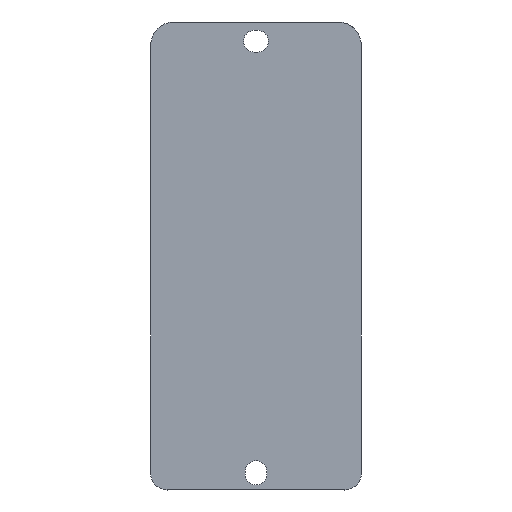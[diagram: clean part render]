
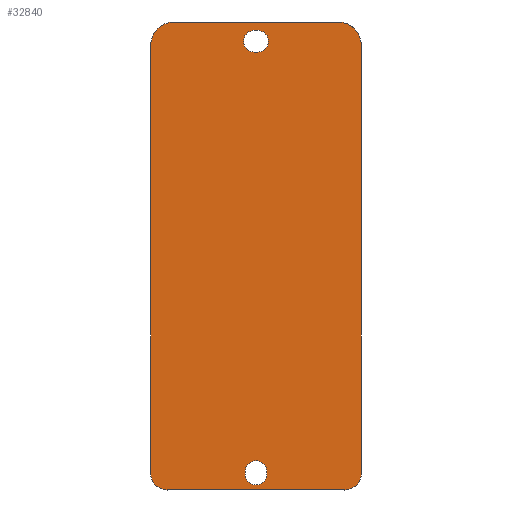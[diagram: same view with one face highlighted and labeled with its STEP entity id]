
A CAD part, front view. The second image highlights one B-rep face of the part: STEP entity #32840.
In plain terms, the highlighted planar face has unit normal (0, -1, 0).
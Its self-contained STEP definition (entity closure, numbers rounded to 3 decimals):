
#25565=CARTESIAN_POINT('',(-26.5,0.,-50.46));
#25566=DIRECTION('',(0.,1.,0.));
#25567=DIRECTION('',(0.,0.,-1.));
#25568=AXIS2_PLACEMENT_3D('',#25565,#25566,#25567);
#25570=DIRECTION('',(0.,0.,1.));
#25571=VECTOR('',#25570,128.);
#25572=CARTESIAN_POINT('',(-31.5,0.,-50.46));
#25573=LINE('',#25572,#25571);
#25574=CARTESIAN_POINT('',(-24.5,0.,77.539));
#25575=DIRECTION('',(0.,1.,0.));
#25576=DIRECTION('',(-1.,0.,0.));
#25577=AXIS2_PLACEMENT_3D('',#25574,#25575,#25576);
#25579=DIRECTION('',(1.,0.,0.));
#25580=VECTOR('',#25579,49.);
#25581=CARTESIAN_POINT('',(-24.5,0.,
84.539));
#25582=LINE('',#25581,#25580);
#25583=CARTESIAN_POINT('',(24.5,0.,77.539));
#25584=DIRECTION('',(0.,1.,0.));
#25585=DIRECTION('',(0.,0.,1.));
#25586=AXIS2_PLACEMENT_3D('',#25583,#25584,#25585);
#25588=DIRECTION('',(0.,0.,-1.));
#25589=VECTOR('',#25588,128.);
#25590=CARTESIAN_POINT('',(31.5,0.,77.539));
#25591=LINE('',#25590,#25589);
#25592=CARTESIAN_POINT('',(26.5,0.,-50.46));
#25593=DIRECTION('',(0.,1.,0.));
#25594=DIRECTION('',(1.,0.,0.));
#25595=AXIS2_PLACEMENT_3D('',#25592,#25593,#25594);
#25597=CARTESIAN_POINT('',(0.,0.,-49.91));
#25598=DIRECTION('',(0.,-1.,0.));
#25599=DIRECTION('',(1.,0.,0.));
#25600=AXIS2_PLACEMENT_3D('',#25597,#25598,#25599);
#25602=DIRECTION('',(0.,0.,-1.));
#25603=VECTOR('',#25602,0.8);
#25604=CARTESIAN_POINT('',(-3.25,0.,-49.91));
#25605=LINE('',#25604,#25603);
#25606=CARTESIAN_POINT('',(0.,0.,-50.71));
#25607=DIRECTION('',(0.,-1.,0.));
#25608=DIRECTION('',(-1.,0.,0.));
#25609=AXIS2_PLACEMENT_3D('',#25606,#25607,#25608);
#25611=DIRECTION('',(0.,0.,1.));
#25612=VECTOR('',#25611,0.8);
#25613=CARTESIAN_POINT('',(3.25,0.,-50.71));
#25614=LINE('',#25613,#25612);
#25615=CARTESIAN_POINT('',(0.5,0.,78.79));
#25616=DIRECTION('',(0.,-1.,0.));
#25617=DIRECTION('',(0.,0.,-1.));
#25618=AXIS2_PLACEMENT_3D('',#25615,#25616,#25617);
#25620=CARTESIAN_POINT('',(0.5,0.,78.79));
#25621=DIRECTION('',(0.,-1.,0.));
#25622=DIRECTION('',(1.,0.,0.));
#25623=AXIS2_PLACEMENT_3D('',#25620,#25621,#25622);
#25625=CARTESIAN_POINT('',(-0.5,0.,78.79));
#25626=DIRECTION('',(0.,-1.,0.));
#25627=DIRECTION('',(0.,0.,1.));
#25628=AXIS2_PLACEMENT_3D('',#25625,#25626,#25627);
#25630=CARTESIAN_POINT('',(-0.5,0.,78.79));
#25631=DIRECTION('',(0.,-1.,0.));
#25632=DIRECTION('',(-1.,0.,0.));
#25633=AXIS2_PLACEMENT_3D('',#25630,#25631,#25632);
#25676=DIRECTION('',(1.,0.,0.));
#25677=VECTOR('',#25676,53.);
#25678=CARTESIAN_POINT('',(-26.5,0.,-55.46));
#25679=LINE('',#25678,#25677);
#25920=DIRECTION('',(-1.,0.,0.));
#25921=VECTOR('',#25920,1.);
#25922=CARTESIAN_POINT('',(0.5,0.,75.54));
#25923=LINE('',#25922,#25921);
#25954=DIRECTION('',(1.,0.,0.));
#25955=VECTOR('',#25954,1.);
#25956=CARTESIAN_POINT('',(-0.5,0.,82.04));
#25957=LINE('',#25956,#25955);
#30585=CARTESIAN_POINT('',(24.5,0.,84.539));
#30586=VERTEX_POINT('',#30585);
#30587=CARTESIAN_POINT('',(-24.5,0.,
84.539));
#30588=VERTEX_POINT('',#30587);
#30654=CARTESIAN_POINT('',(-31.5,0.,-50.46));
#30655=VERTEX_POINT('',#30654);
#30656=CARTESIAN_POINT('',(-26.5,0.,-55.46));
#30657=VERTEX_POINT('',#30656);
#30658=CARTESIAN_POINT('',(-31.5,0.,77.539));
#30659=VERTEX_POINT('',#30658);
#30660=CARTESIAN_POINT('',(31.5,0.,77.539));
#30661=VERTEX_POINT('',#30660);
#30662=CARTESIAN_POINT('',(31.5,0.,-50.46));
#30663=VERTEX_POINT('',#30662);
#30664=CARTESIAN_POINT('',(26.5,0.,-55.46));
#30665=VERTEX_POINT('',#30664);
#30666=CARTESIAN_POINT('',(3.25,0.,-49.91));
#30667=CARTESIAN_POINT('',(-3.25,0.,-49.91));
#30668=VERTEX_POINT('',#30666);
#30669=VERTEX_POINT('',#30667);
#30670=CARTESIAN_POINT('',(-3.25,0.,-50.71));
#30671=VERTEX_POINT('',#30670);
#30672=CARTESIAN_POINT('',(3.25,0.,-50.71));
#30673=VERTEX_POINT('',#30672);
#30674=CARTESIAN_POINT('',(0.5,0.,75.54));
#30675=CARTESIAN_POINT('',(3.75,0.,78.79));
#30676=VERTEX_POINT('',#30674);
#30677=VERTEX_POINT('',#30675);
#30678=CARTESIAN_POINT('',(0.5,0.,82.04));
#30679=VERTEX_POINT('',#30678);
#30680=CARTESIAN_POINT('',(-0.5,0.,82.04));
#30681=VERTEX_POINT('',#30680);
#30682=CARTESIAN_POINT('',(-3.75,0.,78.79));
#30683=VERTEX_POINT('',#30682);
#30684=CARTESIAN_POINT('',(-0.5,0.,75.54));
#30685=VERTEX_POINT('',#30684);
#32797=CARTESIAN_POINT('',(-32.5,0.,98.5));
#32798=DIRECTION('',(0.,-1.,0.));
#32799=DIRECTION('',(0.,0.,-1.));
#32800=AXIS2_PLACEMENT_3D('',#32797,#32798,#32799);
#32801=PLANE('',#32800);
#32802=ORIENTED_EDGE('',*,*,#32763,.T.);
#32803=ORIENTED_EDGE('',*,*,#32778,.T.);
#32804=ORIENTED_EDGE('',*,*,#32791,.T.);
#32805=ORIENTED_EDGE('',*,*,#32368,.T.);
#32807=ORIENTED_EDGE('',*,*,#32806,.T.);
#32809=ORIENTED_EDGE('',*,*,#32808,.T.);
#32811=ORIENTED_EDGE('',*,*,#32810,.T.);
#32813=ORIENTED_EDGE('',*,*,#32812,.F.);
#32814=EDGE_LOOP('',(#32802,#32803,#32804,#32805,#32807,#32809,#32811,#32813));
#32815=FACE_OUTER_BOUND('',#32814,.F.);
#32817=ORIENTED_EDGE('',*,*,#32816,.T.);
#32819=ORIENTED_EDGE('',*,*,#32818,.T.);
#32821=ORIENTED_EDGE('',*,*,#32820,.T.);
#32823=ORIENTED_EDGE('',*,*,#32822,.T.);
#32824=EDGE_LOOP('',(#32817,#32819,#32821,#32823));
#32825=FACE_BOUND('',#32824,.F.);
#32827=ORIENTED_EDGE('',*,*,#32826,.T.);
#32829=ORIENTED_EDGE('',*,*,#32828,.T.);
#32831=ORIENTED_EDGE('',*,*,#32830,.F.);
#32833=ORIENTED_EDGE('',*,*,#32832,.T.);
#32835=ORIENTED_EDGE('',*,*,#32834,.T.);
#32837=ORIENTED_EDGE('',*,*,#32836,.F.);
#32838=EDGE_LOOP('',(#32827,#32829,#32831,#32833,#32835,#32837));
#32839=FACE_BOUND('',#32838,.F.);
#32840=ADVANCED_FACE('',(#32815,#32825,#32839),#32801,.T.);
#25569=CIRCLE('',#25568,5.);
#25578=CIRCLE('',#25577,7.);
#25587=CIRCLE('',#25586,7.);
#25596=CIRCLE('',#25595,5.);
#25601=CIRCLE('',#25600,3.25);
#25610=CIRCLE('',#25609,3.25);
#25619=CIRCLE('',#25618,3.25);
#25624=CIRCLE('',#25623,3.25);
#25629=CIRCLE('',#25628,3.25);
#25634=CIRCLE('',#25633,3.25);
#32368=EDGE_CURVE('',#30588,#30586,#25582,.T.);
#32763=EDGE_CURVE('',#30657,#30655,#25569,.T.);
#32778=EDGE_CURVE('',#30655,#30659,#25573,.T.);
#32791=EDGE_CURVE('',#30659,#30588,#25578,.T.);
#32806=EDGE_CURVE('',#30586,#30661,#25587,.T.);
#32808=EDGE_CURVE('',#30661,#30663,#25591,.T.);
#32810=EDGE_CURVE('',#30663,#30665,#25596,.T.);
#32812=EDGE_CURVE('',#30657,#30665,#25679,.T.);
#32816=EDGE_CURVE('',#30668,#30669,#25601,.T.);
#32818=EDGE_CURVE('',#30669,#30671,#25605,.T.);
#32820=EDGE_CURVE('',#30671,#30673,#25610,.T.);
#32822=EDGE_CURVE('',#30673,#30668,#25614,.T.);
#32826=EDGE_CURVE('',#30676,#30677,#25619,.T.);
#32828=EDGE_CURVE('',#30677,#30679,#25624,.T.);
#32830=EDGE_CURVE('',#30681,#30679,#25957,.T.);
#32832=EDGE_CURVE('',#30681,#30683,#25629,.T.);
#32834=EDGE_CURVE('',#30683,#30685,#25634,.T.);
#32836=EDGE_CURVE('',#30676,#30685,#25923,.T.);
